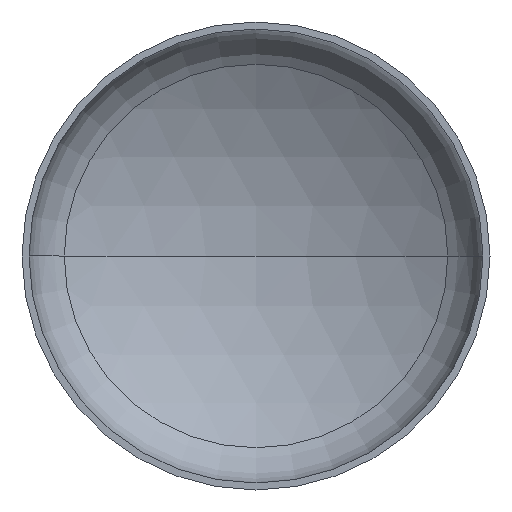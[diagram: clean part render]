
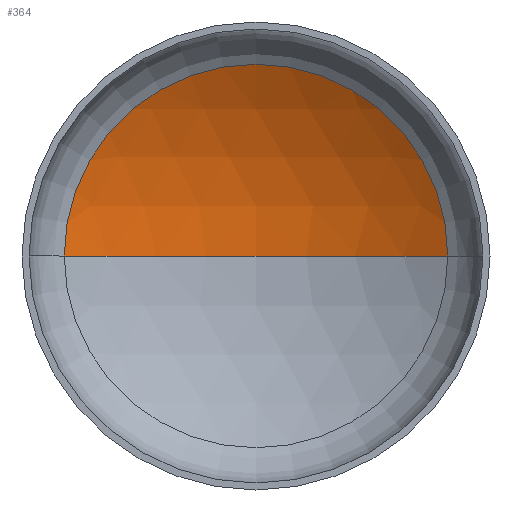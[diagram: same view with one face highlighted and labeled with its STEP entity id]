
A CAD part, front view. The second image highlights one B-rep face of the part: STEP entity #364.
In plain terms, the highlighted spherical face has radius 1920 mm.
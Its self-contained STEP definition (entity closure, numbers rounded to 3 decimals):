
#3 = SPHERICAL_SURFACE ( 'NONE', #32, 1920. ) ;
#4 = DIRECTION ( 'NONE',  ( -1., 0., 0. ) ) ;
#6 = DIRECTION ( 'NONE',  ( 1., 0., 0. ) ) ;
#10 = DIRECTION ( 'NONE',  ( -1., 0., 0. ) ) ;
#12 = DIRECTION ( 'NONE',  ( 0., -1., 0. ) ) ;
#19 = EDGE_LOOP ( 'NONE', ( #102, #53, #91 ) ) ;
#26 = VERTEX_POINT ( 'NONE', #250 ) ;
#32 = AXIS2_PLACEMENT_3D ( 'NONE', #156, #126, #4 ) ;
#40 = VERTEX_POINT ( 'NONE', #370 ) ;
#53 = ORIENTED_EDGE ( 'NONE', *, *, #226, .T. ) ;
#91 = ORIENTED_EDGE ( 'NONE', *, *, #218, .T. ) ;
#102 = ORIENTED_EDGE ( 'NONE', *, *, #234, .F. ) ;
#106 = AXIS2_PLACEMENT_3D ( 'NONE', #192, #193, #257 ) ;
#112 = AXIS2_PLACEMENT_3D ( 'NONE', #324, #281, #10 ) ;
#116 = AXIS2_PLACEMENT_3D ( 'NONE', #366, #12, #6 ) ;
#126 = DIRECTION ( 'NONE',  ( 0., 0., -1. ) ) ;
#150 = VERTEX_POINT ( 'NONE', #317 ) ;
#156 = CARTESIAN_POINT ( 'NONE',  ( 0., -1221.189, 0. ) ) ;
#166 = FACE_OUTER_BOUND ( 'NONE', #19, .T. ) ;
#192 = CARTESIAN_POINT ( 'NONE',  ( 0., -1221.189, 0. ) ) ;
#193 = DIRECTION ( 'NONE',  ( 0., 0., 1. ) ) ;
#218 = EDGE_CURVE ( 'NONE', #26, #40, #326, .T. ) ;
#226 = EDGE_CURVE ( 'NONE', #150, #26, #268, .T. ) ;
#234 = EDGE_CURVE ( 'NONE', #150, #40, #320, .T. ) ;
#250 = CARTESIAN_POINT ( 'NONE',  ( 983.535, 427.768, 0. ) ) ;
#257 = DIRECTION ( 'NONE',  ( 1., 0., 0. ) ) ;
#268 = CIRCLE ( 'NONE', #112, 1920. ) ;
#281 = DIRECTION ( 'NONE',  ( 0., 0., -1. ) ) ;
#317 = CARTESIAN_POINT ( 'NONE',  ( 0., 698.811, 0. ) ) ;
#320 = CIRCLE ( 'NONE', #106, 1920. ) ;
#324 = CARTESIAN_POINT ( 'NONE',  ( 0., -1221.189, 0. ) ) ;
#326 = CIRCLE ( 'NONE', #116, 983.535 ) ;
#364 = ADVANCED_FACE ( 'NONE', ( #166 ), #3, .F. ) ;
#366 = CARTESIAN_POINT ( 'NONE',  ( 0., 427.768, 0. ) ) ;
#370 = CARTESIAN_POINT ( 'NONE',  ( -983.535, 427.768, 0. ) ) ;
